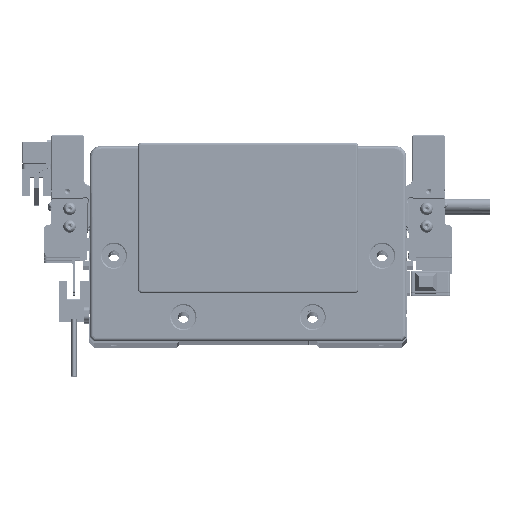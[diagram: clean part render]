
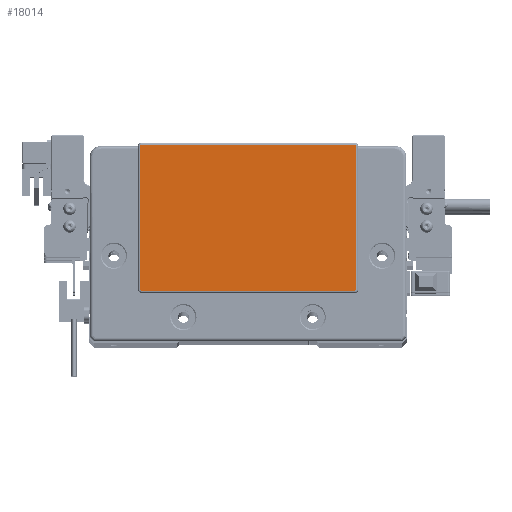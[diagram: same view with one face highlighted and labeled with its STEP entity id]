
A CAD part, top view. The second image highlights one B-rep face of the part: STEP entity #18014.
In plain terms, the highlighted planar face has unit normal (0, 0, 1) as drawn and (0, 0, -1) by its records, which use the part's own axes.
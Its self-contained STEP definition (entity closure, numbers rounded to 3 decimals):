
#859 = AXIS2_PLACEMENT_3D ( 'NONE', #78253, #22905, #39950 ) ;
#966 = DIRECTION ( 'NONE',  ( 0., 0., -1. ) ) ;
#5238 = VERTEX_POINT ( 'NONE', #50248 ) ;
#5963 = CARTESIAN_POINT ( 'NONE',  ( 48.75, 44.3, -2. ) ) ;
#5989 = VERTEX_POINT ( 'NONE', #88315 ) ;
#7269 = ORIENTED_EDGE ( 'NONE', *, *, #104394, .T. ) ;
#7715 = PLANE ( 'NONE',  #20265 ) ;
#8698 = DIRECTION ( 'NONE',  ( -1., 0., 0. ) ) ;
#11193 = VERTEX_POINT ( 'NONE', #43594 ) ;
#14554 = DIRECTION ( 'NONE',  ( 0., 0., -1. ) ) ;
#15207 = EDGE_CURVE ( 'NONE', #55141, #5989, #62499, .T. ) ;
#16173 = LINE ( 'NONE', #58670, #46652 ) ;
#16367 = CIRCLE ( 'NONE', #84294, 0.5 ) ;
#18014 = ADVANCED_FACE ( 'NONE', ( #88530 ), #7715, .T. ) ;
#18116 = LINE ( 'NONE', #98425, #30194 ) ;
#20265 = AXIS2_PLACEMENT_3D ( 'NONE', #43313, #90611, #59252 ) ;
#22512 = DIRECTION ( 'NONE',  ( -1., 0., 0. ) ) ;
#22905 = DIRECTION ( 'NONE',  ( 0., 0., -1. ) ) ;
#23500 = CARTESIAN_POINT ( 'NONE',  ( 49.25, 43.8, -2. ) ) ;
#24387 = CIRCLE ( 'NONE', #83822, 0.5 ) ;
#24598 = CIRCLE ( 'NONE', #859, 0.5 ) ;
#27386 = CARTESIAN_POINT ( 'NONE',  ( 48.75, -21.8, -2. ) ) ;
#30194 = VECTOR ( 'NONE', #43127, 1000. ) ;
#30697 = ORIENTED_EDGE ( 'NONE', *, *, #55526, .T. ) ;
#30980 = ORIENTED_EDGE ( 'NONE', *, *, #15207, .T. ) ;
#31722 = DIRECTION ( 'NONE',  ( -1., 0., 0. ) ) ;
#33416 = DIRECTION ( 'NONE',  ( -1., 0., 0. ) ) ;
#33781 = ORIENTED_EDGE ( 'NONE', *, *, #43025, .T. ) ;
#35834 = VERTEX_POINT ( 'NONE', #69221 ) ;
#38939 = LINE ( 'NONE', #5963, #70542 ) ;
#39950 = DIRECTION ( 'NONE',  ( -1., 0., 0. ) ) ;
#40674 = DIRECTION ( 'NONE',  ( 0., 1., 0. ) ) ;
#43025 = EDGE_CURVE ( 'NONE', #45774, #11193, #18116, .T. ) ;
#43127 = DIRECTION ( 'NONE',  ( 0., -1., 0. ) ) ;
#43313 = CARTESIAN_POINT ( 'NONE',  ( 0., 0., -2. ) ) ;
#43594 = CARTESIAN_POINT ( 'NONE',  ( 49.25, -21.8, -2. ) ) ;
#43662 = CARTESIAN_POINT ( 'NONE',  ( -48.75, 44.3, -2. ) ) ;
#45598 = CARTESIAN_POINT ( 'NONE',  ( -48.75, -22.3, -2. ) ) ;
#45774 = VERTEX_POINT ( 'NONE', #23500 ) ;
#46652 = VECTOR ( 'NONE', #8698, 1000. ) ;
#50199 = EDGE_LOOP ( 'NONE', ( #33781, #81806, #7269, #69161, #30980, #30697, #102148, #52960 ) ) ;
#50248 = CARTESIAN_POINT ( 'NONE',  ( 48.75, -22.3, -2. ) ) ;
#52960 = ORIENTED_EDGE ( 'NONE', *, *, #76702, .T. ) ;
#55141 = VERTEX_POINT ( 'NONE', #81784 ) ;
#55526 = EDGE_CURVE ( 'NONE', #5989, #60630, #16367, .T. ) ;
#58670 = CARTESIAN_POINT ( 'NONE',  ( -48.75, -22.3, -2. ) ) ;
#59252 = DIRECTION ( 'NONE',  ( -1., 0., 0. ) ) ;
#60630 = VERTEX_POINT ( 'NONE', #43662 ) ;
#62499 = LINE ( 'NONE', #81584, #80634 ) ;
#65535 = CIRCLE ( 'NONE', #75702, 0.5 ) ;
#69161 = ORIENTED_EDGE ( 'NONE', *, *, #78041, .T. ) ;
#69221 = CARTESIAN_POINT ( 'NONE',  ( 48.75, 44.3, -2. ) ) ;
#70542 = VECTOR ( 'NONE', #102229, 1000. ) ;
#75702 = AXIS2_PLACEMENT_3D ( 'NONE', #27386, #966, #33416 ) ;
#76702 = EDGE_CURVE ( 'NONE', #35834, #45774, #24387, .T. ) ;
#78041 = EDGE_CURVE ( 'NONE', #80335, #55141, #24598, .T. ) ;
#78253 = CARTESIAN_POINT ( 'NONE',  ( -48.75, -21.8, -2. ) ) ;
#78752 = EDGE_CURVE ( 'NONE', #11193, #5238, #65535, .T. ) ;
#80335 = VERTEX_POINT ( 'NONE', #45598 ) ;
#80634 = VECTOR ( 'NONE', #40674, 1000. ) ;
#81584 = CARTESIAN_POINT ( 'NONE',  ( -49.25, 43.8, -2. ) ) ;
#81784 = CARTESIAN_POINT ( 'NONE',  ( -49.25, -21.8, -2. ) ) ;
#81806 = ORIENTED_EDGE ( 'NONE', *, *, #78752, .T. ) ;
#83822 = AXIS2_PLACEMENT_3D ( 'NONE', #103353, #14554, #22512 ) ;
#84294 = AXIS2_PLACEMENT_3D ( 'NONE', #90142, #98128, #31722 ) ;
#88315 = CARTESIAN_POINT ( 'NONE',  ( -49.25, 43.8, -2. ) ) ;
#88530 = FACE_OUTER_BOUND ( 'NONE', #50199, .T. ) ;
#90142 = CARTESIAN_POINT ( 'NONE',  ( -48.75, 43.8, -2. ) ) ;
#90611 = DIRECTION ( 'NONE',  ( 0., 0., -1. ) ) ;
#98128 = DIRECTION ( 'NONE',  ( 0., 0., -1. ) ) ;
#98425 = CARTESIAN_POINT ( 'NONE',  ( 49.25, -21.8, -2. ) ) ;
#102148 = ORIENTED_EDGE ( 'NONE', *, *, #104618, .T. ) ;
#102229 = DIRECTION ( 'NONE',  ( 1., 0., 0. ) ) ;
#103353 = CARTESIAN_POINT ( 'NONE',  ( 48.75, 43.8, -2. ) ) ;
#104394 = EDGE_CURVE ( 'NONE', #5238, #80335, #16173, .T. ) ;
#104618 = EDGE_CURVE ( 'NONE', #60630, #35834, #38939, .T. ) ;
